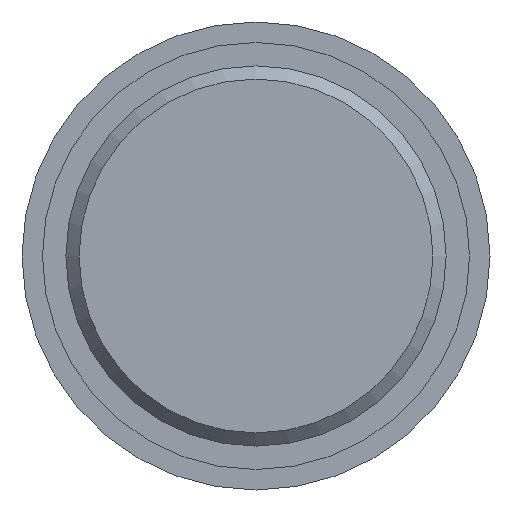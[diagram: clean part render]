
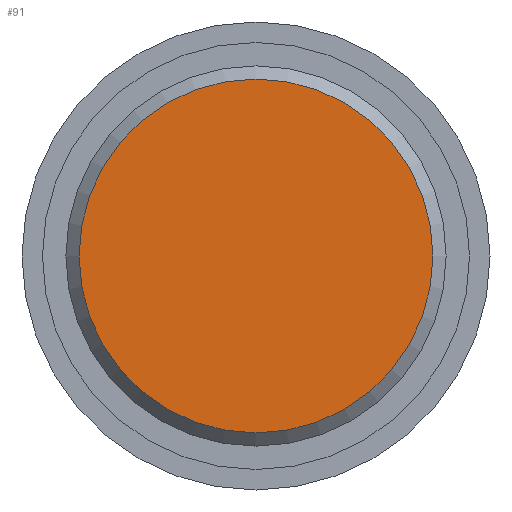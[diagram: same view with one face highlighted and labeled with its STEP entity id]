
A CAD part, front view. The second image highlights one B-rep face of the part: STEP entity #91.
In plain terms, the highlighted planar face has unit normal (0, -1, 0).
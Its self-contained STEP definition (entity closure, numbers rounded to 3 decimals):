
#91 = ADVANCED_FACE( '', ( #138 ), #139, .F. );
#138 = FACE_OUTER_BOUND( '', #193, .T. );
#139 = PLANE( '', #194 );
#193 = EDGE_LOOP( '', ( #308 ) );
#194 = AXIS2_PLACEMENT_3D( '', #309, #310, #311 );
#308 = ORIENTED_EDGE( '', *, *, #359, .T. );
#309 = CARTESIAN_POINT( '', ( 12.1, 0., 0. ) );
#310 = DIRECTION( '', ( 0., 1., 0. ) );
#311 = DIRECTION( '', ( 0., 0., 1. ) );
#359 = EDGE_CURVE( '', #411, #411, #412, .T. );
#411 = VERTEX_POINT( '', #485 );
#412 = CIRCLE( '', #486, 12.1 );
#485 = CARTESIAN_POINT( '', ( 0., 0., -12.1 ) );
#486 = AXIS2_PLACEMENT_3D( '', #538, #539, #540 );
#538 = CARTESIAN_POINT( '', ( 0., 0., 0. ) );
#539 = DIRECTION( '', ( 0., -1., 0. ) );
#540 = DIRECTION( '', ( 0., 0., -1. ) );
